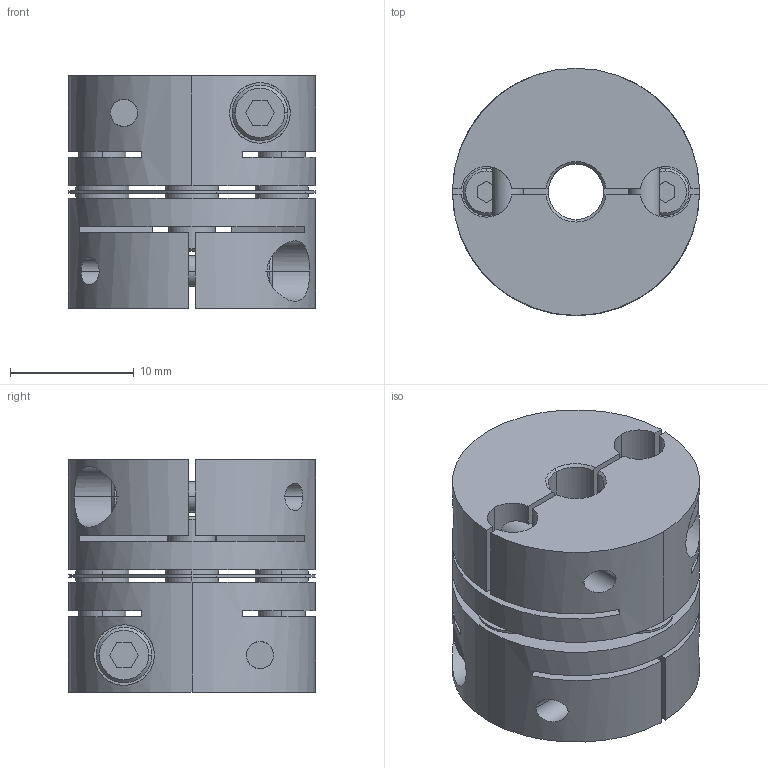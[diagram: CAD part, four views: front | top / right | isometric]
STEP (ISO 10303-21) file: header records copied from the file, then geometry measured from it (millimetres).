
FILE_DESCRIPTION((''),'2;1');
FILE_NAME('LAS-20C-4.5×7.stp','2016-04-21T12:05:57',(''),(''),'AutoCAD STEP 2000i','AutoCAD 2000i',', , ');
FILE_SCHEMA(('CONFIG_CONTROL_DESIGN'));
Length unit declared in the file: millimetre
Products named in the file (5): LAS-20C-4×4; 忣兜1; LA-2002-D04-1; LA-2002-D04; LAS20-ITA
Assembly tree (4 placements, depth 2):
  LAS-20C-4×4
    忣兜1
    LA-2002-D04-1
    LA-2002-D04
    LAS20-ITA
Bounding box: 20 x 20 x 18.8 mm (x, y, z)
Volume: 4528.1 mm3; surface area: 4534.8 mm2
Topology: 1 solids, 1 shells, 236 faces, 624 edges, 408 vertices
Faces by surface type: plane 112, cylinder 96, cone 28
Entity records: 8203 total; most frequent: CARTESIAN_POINT 2009, DIRECTION 1302, ORIENTED_EDGE 1248, EDGE_CURVE 624, AXIS2_PLACEMENT_3D 477, VERTEX_POINT 408, VECTOR 348, LINE 348
